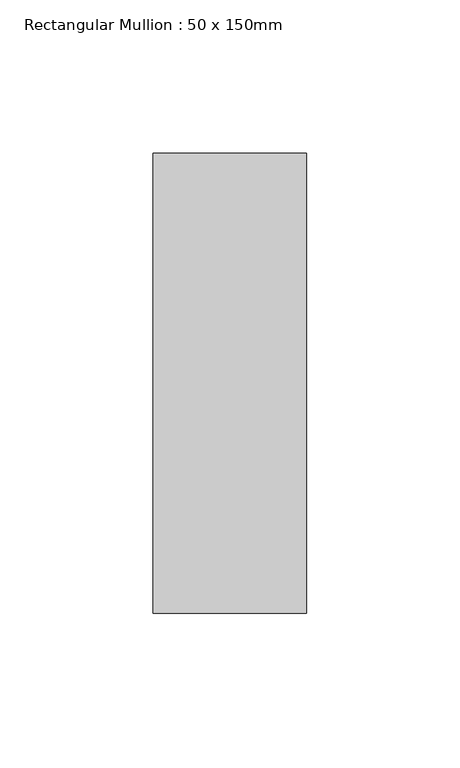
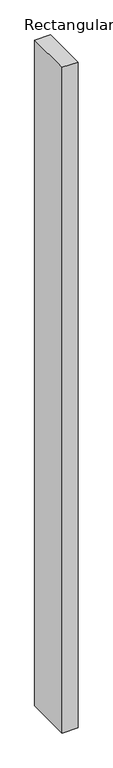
"""IFC4 building model written with IfcOpenShell, lengths in millimetres: member geometry, Rectangular Mullion : 50 x 150mm."""

from ifc_helpers import new_model, si_unit, frame, origin, place, context, project, spatial, polyline, outline, extrude, source, transform, mapped, element, save


def rectangular_mullion_50_x_150mm_3a6771bd(model_context):
    return source(origin(), model_context, "Body", "SweptSolid", [
        extrude(outline(polyline([(0.0, 75.0), (0.0, -75.0), (-50.0, -75.0), (-50.0, 75.0), (0.0, 75.0)])), frame((0.0, 0.0, -2220.0), z_axis=(0.0, 0.0, 1.0), x_axis=(1.0, 0.0, 0.0)), (0.0, 0.0, 1.0), 2220.0),
    ])


if __name__ == "__main__":
    model = new_model("IFC4")
    model_context = context("Model", 3, world=origin())
    ifc_project = project(units=[si_unit("LENGTHUNIT", "METRE", prefix="MILLI")], contexts=[model_context])
    site = spatial("IfcSite", under=ifc_project)
    building = spatial("IfcBuilding", under=site)
    placement = place(None, origin())
    rectangular_mullion_50_x_150mm_shape = rectangular_mullion_50_x_150mm_3a6771bd(model_context)
    element("IfcMember", 1, ObjectType="Rectangular Mullion : 50 x 150mm", at=placement, inside=building, context=model_context, shape_type="MappedRepresentation", body=[
        mapped(rectangular_mullion_50_x_150mm_shape, transform((0.0, 0.0, 0.0), x_axis=(1.0, 0.0, 0.0), y_axis=(0.0, 1.0, 0.0), z_axis=(0.0, 0.0, 1.0))),
    ])
    save(model, "model.ifc")
